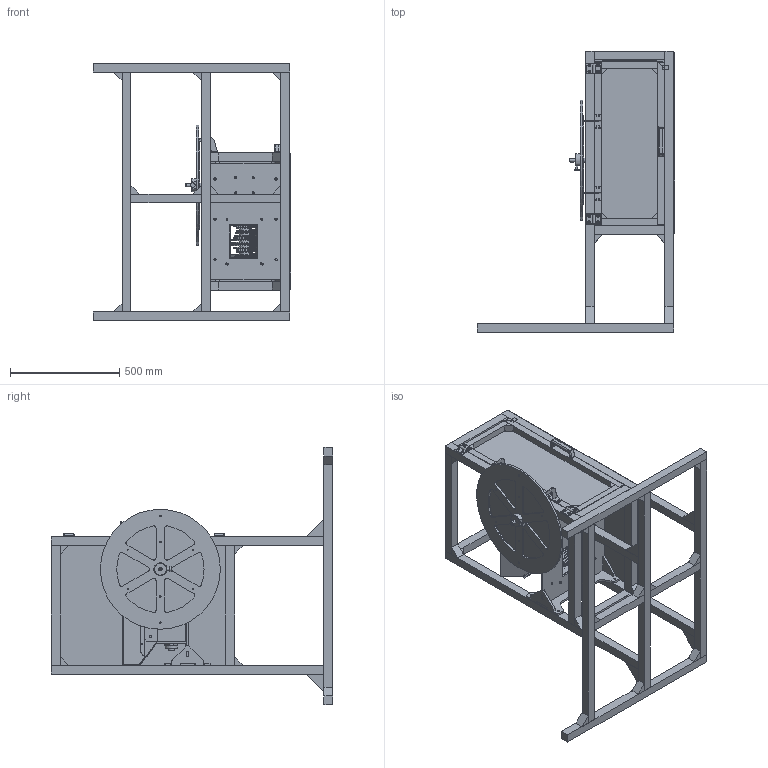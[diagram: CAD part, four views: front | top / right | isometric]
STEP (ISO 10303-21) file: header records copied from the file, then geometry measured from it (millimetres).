
FILE_DESCRIPTION(/* description */ (''),/* implementation_level */ '2;1');
FILE_NAME(/* name */ 'C:/Users/Javier/Downloads/statements/JN160.1 GA v19.step',/* time_stamp */ '2019-10-13T11:55:03+01:00',/* author */ (''),/* organization */ (''),/* preprocessor_version */ 'ST-DEVELOPER v18',/* originating_system */ 'Autodesk Translation Framework v8.6.0.1094',/* authorisation */ '');
FILE_SCHEMA (('AUTOMOTIVE_DESIGN { 1 0 10303 214 3 1 1 }'));
Products named in the file (109): JN160.1 GA; JN158 shredder v6; Component45; Assembly; Shredding; Messet; 01.04.05 Knife 3 5mm; 01.04.05 Knife 3 5mm (1); 01.04.03; 01.04.03 Knife 1 5mm; 01.04.04; 01.04.04 Knife 5mm 2; tegenmessen; kladsettegenmessenrin; kladsettegenmessenrin_1; kladsettegenmessenrin_2; kladsettegenmessenrin_3; kladsettegenmessenrin_4; kladsettegenmessenrin_5; kladsettegenmessenrin_6; kladsettegenmessenrin_7; kladsettegenmessenrin_8; kladsettegenmessenrin_9; kladsettegenmessenrin_10; kladsettegenmessenrin_11; kladsettegenmessenrin_12; .1.04.08 CounterKnife Big 5mm 13x; 01.04.08 CounterknifBig 5mm 13x; kladsettegenmessenrin_13; 01.04.06 Spacer 6mm ; 01.04.06 Spacer 6mm; 01.04.07 Counterknife small 6mm 15x; 01.04.07 Counterknife small 6m 15x; Frame Laser; lagerplaatlinks (1); 01.04.21 Bracket Top; Angle 30x30x3 (1); 07175-110x30 v1 (1); lagerplaat rechts (1); Component45(Mirror) (1) (1)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
Assembly tree (221 placements, depth 9):
  JN160.1 GA
    JN158 shredder v6
      Component45
        Assembly
          Shredding
            Messet
              01.04.03  x5
                01.04.03 Knife 1 5mm
              01.04.04  x5
                01.04.04 Knife 5mm 2
              01.04.05 Knife 3 5mm  x4
                01.04.05 Knife 3 5mm (1)
            tegenmessen
              kladsettegenmessenrin
                01.04.06 Spacer 6mm 
                  01.04.06 Spacer 6mm
                01.04.07 Counterknife small 6mm 15x
                  01.04.07 Counterknife small 6m 15x
                .1.04.08 CounterKnife Big 5mm 13x
                  01.04.08 CounterknifBig 5mm 13x
              kladsettegenmessenrin_1
                01.04.06 Spacer 6mm 
                  01.04.06 Spacer 6mm
                01.04.07 Counterknife small 6mm 15x
                  01.04.07 Counterknife small 6m 15x
                .1.04.08 CounterKnife Big 5mm 13x
                  01.04.08 CounterknifBig 5mm 13x
              kladsettegenmessenrin_2
                01.04.06 Spacer 6mm 
                  01.04.06 Spacer 6mm
                01.04.07 Counterknife small 6mm 15x
                  01.04.07 Counterknife small 6m 15x
                .1.04.08 CounterKnife Big 5mm 13x
                  01.04.08 CounterknifBig 5mm 13x
              kladsettegenmessenrin_3
                01.04.06 Spacer 6mm 
                  01.04.06 Spacer 6mm
                01.04.07 Counterknife small 6mm 15x
                  01.04.07 Counterknife small 6m 15x
                .1.04.08 CounterKnife Big 5mm 13x
                  01.04.08 CounterknifBig 5mm 13x
              kladsettegenmessenrin_4
                01.04.06 Spacer 6mm 
                  01.04.06 Spacer 6mm
                01.04.07 Counterknife small 6mm 15x
                  01.04.07 Counterknife small 6m 15x
                .1.04.08 CounterKnife Big 5mm 13x
                  01.04.08 CounterknifBig 5mm 13x
              kladsettegenmessenrin_5
                01.04.06 Spacer 6mm 
                  01.04.06 Spacer 6mm
                01.04.07 Counterknife small 6mm 15x
                  01.04.07 Counterknife small 6m 15x
                .1.04.08 CounterKnife Big 5mm 13x
                  01.04.08 CounterknifBig 5mm 13x
              kladsettegenmessenrin_6
                01.04.06 Spacer 6mm 
                  01.04.06 Spacer 6mm
                01.04.07 Counterknife small 6mm 15x
                  01.04.07 Counterknife small 6m 15x
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Bounding box: 905 x 1290 x 1180 mm (x, y, z)
Volume: 40368892.3 mm3; surface area: 7459919.1 mm2
Topology: 174 solids, 180 shells, 3353 faces, 8693 edges, 5707 vertices
Faces by surface type: plane 2013, cylinder 1094, bspline 83, cone 69, sphere 57, torus 37
Full cylindrical faces by diameter (mm): 0.8 x12, 4.234 x8, 4.918 x3, 5 x2, 5.5 x22, 6 x9, 6.6 x8, 6.779 x5, 8.5 x24, 8.526 x1, 9 x34, 9.85 x1, 10 x3, 10.5 x68, 12 x8, 14 x2, 15.833 x1, 16 x1, 19 x1, 20 x10, 21 x1, 25 x4, 29 x12, 40.314 x6, 42 x2, 50 x14, 51.7 x3, 54 x6, 70 x2, 127.61 x1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
Entity records: 66672 total; most frequent: CARTESIAN_POINT 14777, DIRECTION 10459, ORIENTED_EDGE 10076, EDGE_CURVE 5038, AXIS2_PLACEMENT_3D 3577, LINE 3305, VECTOR 3305, VERTEX_POINT 3292
